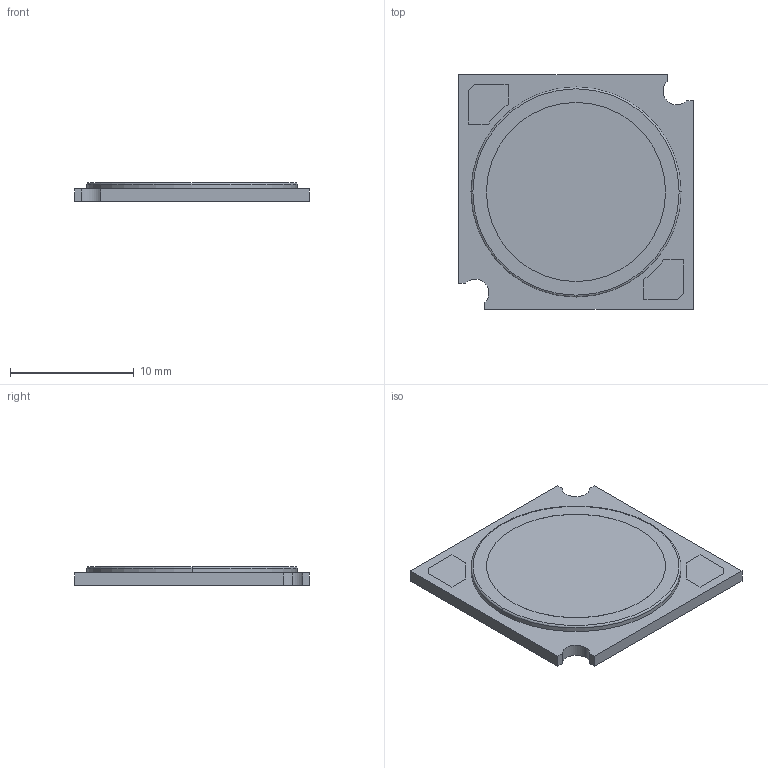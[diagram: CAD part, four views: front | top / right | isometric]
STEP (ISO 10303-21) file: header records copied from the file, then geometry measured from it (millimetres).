
FILE_DESCRIPTION((''),'2;1');
FILE_NAME('16212203_SLE-SNC8-LES-15-R','2022-03-22T08:19:34',('Bernhard.Fink'),(''),'CREO PARAMETRIC BY PTC INC, 2021184','CREO PARAMETRIC BY PTC INC, 2021184','');
FILE_SCHEMA(('CONFIG_CONTROL_DESIGN'));
Length unit declared in the file: millimetre
Products named in the file (1): 16212203_SLE-SNC8-LES-15-R
Bounding box: 19 x 19 x 1.5 mm (x, y, z)
Volume: 462.2 mm3; surface area: 801.8 mm2
Topology: 1 solids, 1 shells, 35 faces, 87 edges, 58 vertices
Faces by surface type: plane 24, cylinder 9, torus 2
Entity records: 1083 total; most frequent: DIRECTION 181, CARTESIAN_POINT 180, ORIENTED_EDGE 174, EDGE_CURVE 87, VECTOR 63, LINE 63, AXIS2_PLACEMENT_3D 59, VERTEX_POINT 58
